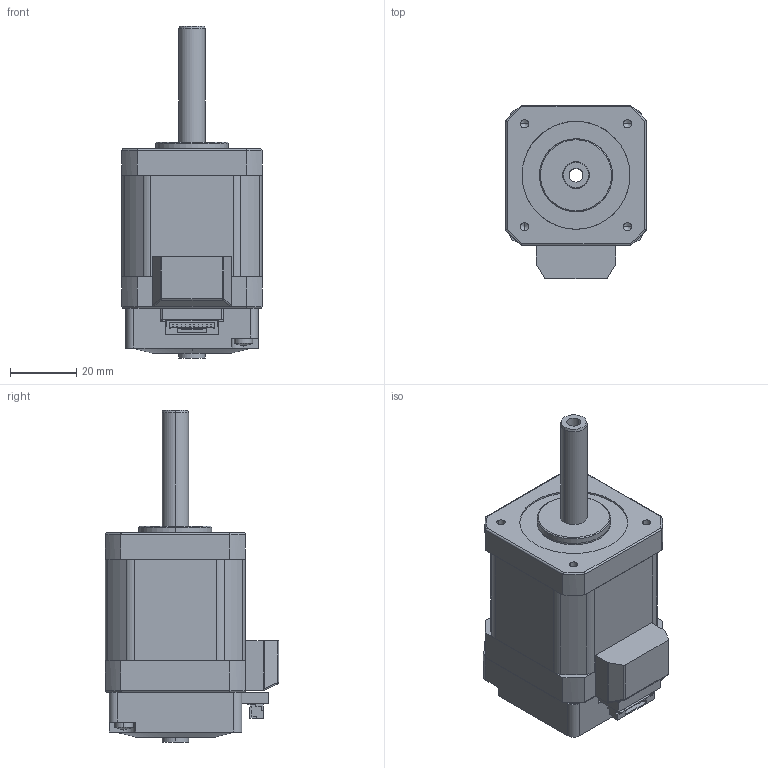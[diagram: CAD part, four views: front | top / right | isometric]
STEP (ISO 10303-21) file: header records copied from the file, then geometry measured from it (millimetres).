
FILE_DESCRIPTION (( 'STEP AP203' ), '1' );
FILE_NAME ('42CME06-ZK MS30.STEP', '2024-09-09T02:18:35', ( 'Owner' ), ( 'Organization' ), 'SwSTEP 2.0', 'SolidWorks 2018', '' );
FILE_SCHEMA (( 'CONFIG_CONTROL_DESIGN' ));
Length unit declared in the file: millimetre
Products named in the file (4): 42HS048DF090M-09(默认); 蹟隊 GB_T 823-M3x10; 晤鎢ん; 42CME06-ZK MS30
Assembly tree (6 placements, depth 2):
  42CME06-ZK MS30
    42HS048DF090M-09(默认)
    晤鎢ん
    蹟隊 GB_T 823-M3x10  x4
Bounding box: 42.2 x 52.2 x 100 mm (x, y, z)
Volume: 95602.7 mm3; surface area: 35570 mm2
Topology: 15 solids, 15 shells, 678 faces, 1781 edges, 1147 vertices
Faces by surface type: plane 369, cylinder 231, cone 44, bspline 34
Entity records: 22120 total; most frequent: CARTESIAN_POINT 6507, ORIENTED_EDGE 3182, DIRECTION 3071, EDGE_CURVE 1591, VERTEX_POINT 1036, VECTOR 1035, LINE 1035, AXIS2_PLACEMENT_3D 1018
